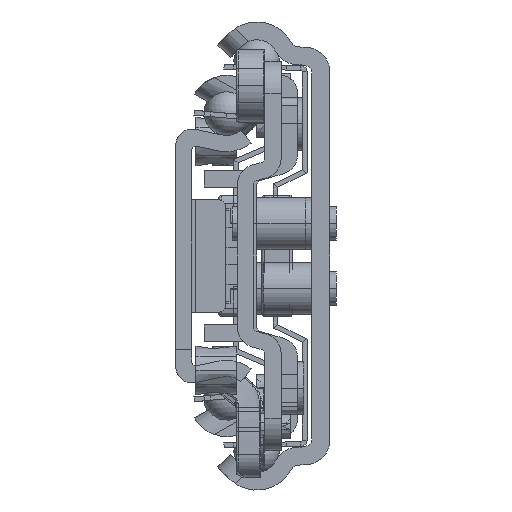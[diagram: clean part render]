
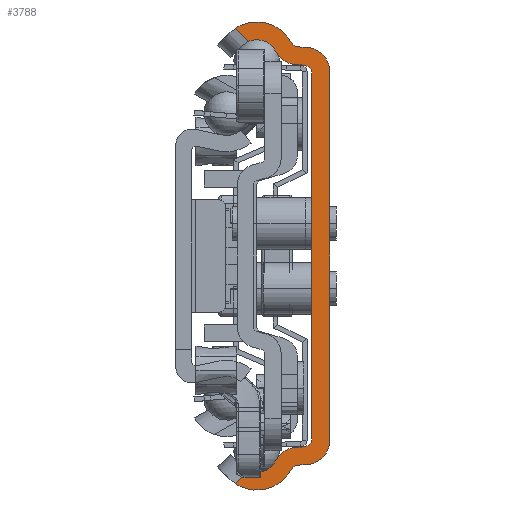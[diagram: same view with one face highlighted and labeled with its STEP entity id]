
A CAD part, left-side view. The second image highlights one B-rep face of the part: STEP entity #3788.
In plain terms, the highlighted planar face has unit normal (-1, 0, 0).
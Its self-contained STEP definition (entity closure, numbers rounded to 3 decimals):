
#1=DIRECTION('',(0.,0.717,-0.697));
#2=VECTOR('',#1,2.305);
#3=CARTESIAN_POINT('',(-350.,9.972,-26.461));
#4=LINE('',#3,#2);
#5=CARTESIAN_POINT('',(-350.,9.,-24.05));
#6=DIRECTION('',(-1.,0.,0.));
#7=DIRECTION('',(0.,0.374,-0.927));
#8=AXIS2_PLACEMENT_3D('',#5,#6,#7);
#10=CARTESIAN_POINT('',(-350.,4.005,-26.582));
#11=DIRECTION('',(-1.,0.,0.));
#12=DIRECTION('',(0.,0.07,0.998));
#13=AXIS2_PLACEMENT_3D('',#10,#11,#12);
#15=DIRECTION('',(0.,-0.998,0.07));
#16=VECTOR('',#15,1.087);
#17=CARTESIAN_POINT('',(-350.,4.214,-23.589));
#18=LINE('',#17,#16);
#19=DIRECTION('',(0.,0.,1.));
#20=VECTOR('',#19,45.032);
#21=CARTESIAN_POINT('',(-350.,2.2,-22.516));
#22=LINE('',#21,#20);
#23=DIRECTION('',(0.,0.998,0.07));
#24=VECTOR('',#23,1.087);
#25=CARTESIAN_POINT('',(-350.,3.13,23.514));
#26=LINE('',#25,#24);
#27=CARTESIAN_POINT('',(-350.,4.005,26.582));
#28=DIRECTION('',(-1.,0.,0.));
#29=DIRECTION('',(0.,0.892,-0.452));
#30=AXIS2_PLACEMENT_3D('',#27,#28,#29);
#32=CARTESIAN_POINT('',(-350.,9.,24.05));
#33=DIRECTION('',(-1.,0.,0.));
#34=DIRECTION('',(0.,-0.892,0.452));
#35=AXIS2_PLACEMENT_3D('',#32,#33,#34);
#37=DIRECTION('',(0.,-0.717,-0.697));
#38=VECTOR('',#37,2.305);
#39=CARTESIAN_POINT('',(-350.,11.624,28.069));
#40=LINE('',#39,#38);
#41=CARTESIAN_POINT('',(-350.,9.,24.05));
#42=DIRECTION('',(1.,0.,0.));
#43=DIRECTION('',(0.,0.547,0.837));
#44=AXIS2_PLACEMENT_3D('',#41,#42,#43);
#46=DIRECTION('',(0.,-0.998,-0.07));
#47=VECTOR('',#46,1.161);
#48=CARTESIAN_POINT('',(-350.,3.949,25.776));
#49=LINE('',#48,#47);
#50=CARTESIAN_POINT('',(-350.,3.,22.702));
#51=DIRECTION('',(-1.,0.,0.));
#52=DIRECTION('',(0.,-1.,0.));
#53=AXIS2_PLACEMENT_3D('',#50,#51,#52);
#55=DIRECTION('',(0.,0.,-1.));
#56=VECTOR('',#55,45.405);
#57=CARTESIAN_POINT('',(-350.,0.,22.702));
#58=LINE('',#57,#56);
#59=CARTESIAN_POINT('',(-350.,3.,-22.702));
#60=DIRECTION('',(-1.,0.,0.));
#61=DIRECTION('',(0.,-0.07,-0.998));
#62=AXIS2_PLACEMENT_3D('',#59,#60,#61);
#64=DIRECTION('',(0.,0.998,-0.07));
#65=VECTOR('',#64,1.161);
#66=CARTESIAN_POINT('',(-350.,2.791,-25.695));
#67=LINE('',#66,#65);
#68=CARTESIAN_POINT('',(-350.,9.,-24.05));
#69=DIRECTION('',(1.,0.,0.));
#70=DIRECTION('',(0.,-0.883,-0.47));
#71=AXIS2_PLACEMENT_3D('',#68,#69,#70);
#79=CARTESIAN_POINT('',(-350.,11.624,-28.069));
#103=CARTESIAN_POINT('',(-350.,9.972,-26.461));
#195=CARTESIAN_POINT('',(-350.,11.624,28.069));
#201=CARTESIAN_POINT('',(-350.,3.879,26.774));
#202=DIRECTION('',(1.,0.,0.));
#203=DIRECTION('',(0.,0.07,-0.998));
#204=AXIS2_PLACEMENT_3D('',#201,#202,#203);
#903=CARTESIAN_POINT('',(-350.,3.879,-26.774));
#904=DIRECTION('',(1.,0.,0.));
#905=DIRECTION('',(0.,0.883,0.47));
#906=AXIS2_PLACEMENT_3D('',#903,#904,#905);
#1674=CARTESIAN_POINT('',(-350.,3.2,-22.516));
#1675=DIRECTION('',(1.,0.,0.));
#1676=DIRECTION('',(0.,-1.,0.));
#1677=AXIS2_PLACEMENT_3D('',#1674,#1675,#1676);
#1692=CARTESIAN_POINT('',(-350.,3.2,22.516));
#1693=DIRECTION('',(1.,0.,0.));
#1694=DIRECTION('',(0.,-0.07,0.998));
#1695=AXIS2_PLACEMENT_3D('',#1692,#1693,#1694);
#1716=CARTESIAN_POINT('',(-350.,9.972,26.461));
#2957=CARTESIAN_POINT('',(-350.,2.2,-22.516));
#2959=VERTEX_POINT('',#2957);
#2961=CARTESIAN_POINT('',(-350.,3.13,-23.514));
#2963=VERTEX_POINT('',#2961);
#2965=CARTESIAN_POINT('',(-350.,3.13,23.514));
#2967=VERTEX_POINT('',#2965);
#2969=CARTESIAN_POINT('',(-350.,2.2,22.516));
#2971=VERTEX_POINT('',#2969);
#2973=CARTESIAN_POINT('',(-350.,3.949,25.776));
#2975=VERTEX_POINT('',#2973);
#2977=CARTESIAN_POINT('',(-350.,4.762,26.304));
#2979=VERTEX_POINT('',#2977);
#2981=CARTESIAN_POINT('',(-350.,4.762,-26.304));
#2983=VERTEX_POINT('',#2981);
#2985=CARTESIAN_POINT('',(-350.,3.949,-25.776));
#2987=VERTEX_POINT('',#2985);
#2989=CARTESIAN_POINT('',(-350.,4.214,-23.589));
#2990=CARTESIAN_POINT('',(-350.,6.681,-25.226));
#2991=VERTEX_POINT('',#2989);
#2992=VERTEX_POINT('',#2990);
#2997=CARTESIAN_POINT('',(-350.,6.681,25.226));
#2998=CARTESIAN_POINT('',(-350.,4.214,23.589));
#2999=VERTEX_POINT('',#2997);
#3000=VERTEX_POINT('',#2998);
#3005=CARTESIAN_POINT('',(-350.,0.,22.702));
#3006=CARTESIAN_POINT('',(-350.,2.791,25.695));
#3007=VERTEX_POINT('',#3005);
#3008=VERTEX_POINT('',#3006);
#3013=CARTESIAN_POINT('',(-350.,2.791,-25.695));
#3014=CARTESIAN_POINT('',(-350.,0.,-22.702));
#3015=VERTEX_POINT('',#3013);
#3016=VERTEX_POINT('',#3014);
#3363=VERTEX_POINT('',#79);
#3371=VERTEX_POINT('',#103);
#3372=VERTEX_POINT('',#1716);
#3380=VERTEX_POINT('',#195);
#3741=CARTESIAN_POINT('',(-350.,0.,0.));
#3742=DIRECTION('',(1.,0.,0.));
#3743=DIRECTION('',(0.,-1.,0.));
#3744=AXIS2_PLACEMENT_3D('',#3741,#3742,#3743);
#3745=PLANE('',#3744);
#3747=ORIENTED_EDGE('',*,*,#3746,.F.);
#3749=ORIENTED_EDGE('',*,*,#3748,.T.);
#3751=ORIENTED_EDGE('',*,*,#3750,.F.);
#3753=ORIENTED_EDGE('',*,*,#3752,.T.);
#3755=ORIENTED_EDGE('',*,*,#3754,.F.);
#3757=ORIENTED_EDGE('',*,*,#3756,.T.);
#3759=ORIENTED_EDGE('',*,*,#3758,.F.);
#3761=ORIENTED_EDGE('',*,*,#3760,.T.);
#3763=ORIENTED_EDGE('',*,*,#3762,.F.);
#3765=ORIENTED_EDGE('',*,*,#3764,.T.);
#3767=ORIENTED_EDGE('',*,*,#3766,.F.);
#3769=ORIENTED_EDGE('',*,*,#3768,.T.);
#3771=ORIENTED_EDGE('',*,*,#3770,.F.);
#3773=ORIENTED_EDGE('',*,*,#3772,.T.);
#3775=ORIENTED_EDGE('',*,*,#3774,.F.);
#3777=ORIENTED_EDGE('',*,*,#3776,.T.);
#3779=ORIENTED_EDGE('',*,*,#3778,.F.);
#3781=ORIENTED_EDGE('',*,*,#3780,.T.);
#3783=ORIENTED_EDGE('',*,*,#3782,.F.);
#3785=ORIENTED_EDGE('',*,*,#3784,.T.);
#3786=EDGE_LOOP('',(#3747,#3749,#3751,#3753,#3755,#3757,#3759,#3761,#3763,#3765,
#3767,#3769,#3771,#3773,#3775,#3777,#3779,#3781,#3783,#3785));
#3787=FACE_OUTER_BOUND('',#3786,.F.);
#3788=ADVANCED_FACE('',(#3787),#3745,.F.);
#9=CIRCLE('',#8,2.6);
#14=CIRCLE('',#13,3.);
#31=CIRCLE('',#30,3.);
#36=CIRCLE('',#35,2.6);
#45=CIRCLE('',#44,4.8);
#54=CIRCLE('',#53,3.);
#63=CIRCLE('',#62,3.);
#72=CIRCLE('',#71,4.8);
#205=CIRCLE('',#204,1.);
#907=CIRCLE('',#906,1.);
#1678=CIRCLE('',#1677,1.);
#1696=CIRCLE('',#1695,1.);
#3746=EDGE_CURVE('',#3371,#3363,#4,.T.);
#3748=EDGE_CURVE('',#3371,#2992,#9,.T.);
#3750=EDGE_CURVE('',#2991,#2992,#14,.T.);
#3752=EDGE_CURVE('',#2991,#2963,#18,.T.);
#3754=EDGE_CURVE('',#2959,#2963,#1678,.T.);
#3756=EDGE_CURVE('',#2959,#2971,#22,.T.);
#3758=EDGE_CURVE('',#2967,#2971,#1696,.T.);
#3760=EDGE_CURVE('',#2967,#3000,#26,.T.);
#3762=EDGE_CURVE('',#2999,#3000,#31,.T.);
#3764=EDGE_CURVE('',#2999,#3372,#36,.T.);
#3766=EDGE_CURVE('',#3380,#3372,#40,.T.);
#3768=EDGE_CURVE('',#3380,#2979,#45,.T.);
#3770=EDGE_CURVE('',#2975,#2979,#205,.T.);
#3772=EDGE_CURVE('',#2975,#3008,#49,.T.);
#3774=EDGE_CURVE('',#3007,#3008,#54,.T.);
#3776=EDGE_CURVE('',#3007,#3016,#58,.T.);
#3778=EDGE_CURVE('',#3015,#3016,#63,.T.);
#3780=EDGE_CURVE('',#3015,#2987,#67,.T.);
#3782=EDGE_CURVE('',#2983,#2987,#907,.T.);
#3784=EDGE_CURVE('',#2983,#3363,#72,.T.);
